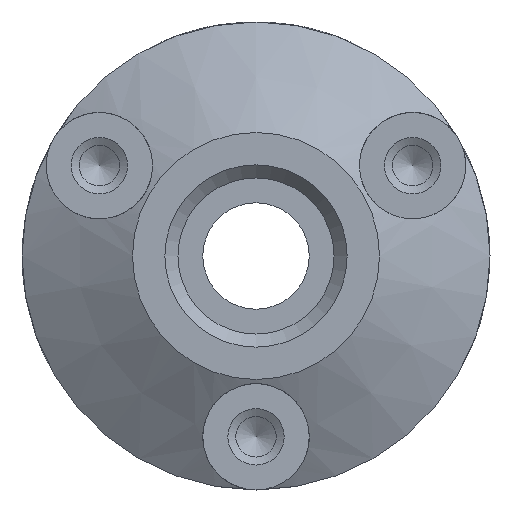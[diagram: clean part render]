
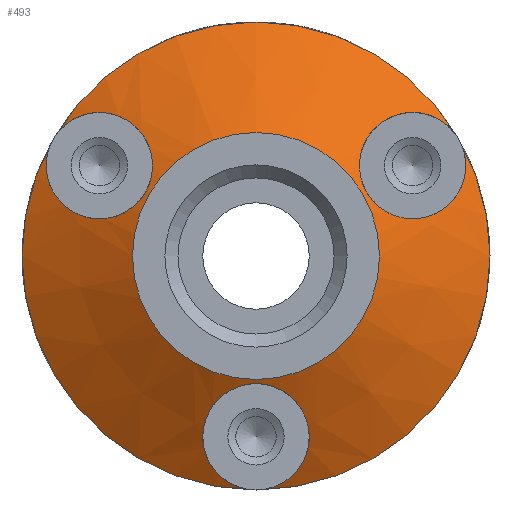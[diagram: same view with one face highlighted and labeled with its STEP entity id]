
A CAD part, front view. The second image highlights one B-rep face of the part: STEP entity #493.
In plain terms, the highlighted conical face has half-angle 60 degrees and reference radius 22 mm.
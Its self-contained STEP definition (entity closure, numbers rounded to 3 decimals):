
#92=CONICAL_SURFACE('',#1375,22.,60.);
#289=FACE_BOUND('',#715,.T.);
#290=FACE_BOUND('',#716,.T.);
#391=CIRCLE('',#1359,22.);
#392=CIRCLE('',#1360,22.);
#393=CIRCLE('',#1361,22.);
#395=CIRCLE('',#1364,11.608);
#493=ADVANCED_FACE('',(#289,#290),#92,.T.);
#715=EDGE_LOOP('',(#939));
#716=EDGE_LOOP('',(#940,#941,#942,#943,#944,#945));
#939=ORIENTED_EDGE('',*,*,#1180,.F.);
#940=ORIENTED_EDGE('',*,*,#1178,.F.);
#941=ORIENTED_EDGE('',*,*,#1188,.F.);
#942=ORIENTED_EDGE('',*,*,#1177,.F.);
#943=ORIENTED_EDGE('',*,*,#1189,.F.);
#944=ORIENTED_EDGE('',*,*,#1176,.F.);
#945=ORIENTED_EDGE('',*,*,#1190,.F.);
#1066=VERTEX_POINT('',#2139);
#1067=VERTEX_POINT('',#2140);
#1068=VERTEX_POINT('',#2142);
#1070=VERTEX_POINT('',#2148);
#1176=EDGE_CURVE('',#1066,#1067,#391,.T.);
#1177=EDGE_CURVE('',#1067,#1068,#392,.T.);
#1178=EDGE_CURVE('',#1068,#1066,#393,.T.);
#1180=EDGE_CURVE('',#1070,#1070,#395,.T.);
#1188=EDGE_CURVE('',#1068,#1068,#1210,.T.);
#1189=EDGE_CURVE('',#1067,#1067,#1211,.T.);
#1190=EDGE_CURVE('',#1066,#1066,#1212,.T.);
#1210=B_SPLINE_CURVE_WITH_KNOTS('',3,(#2166,#2167,#2168,#2169,#2170,#2171,
#2172,#2173,#2174,#2175,#2176,#2177,#2178,#2179,#2180,#2181,#2182,#2183),
 .UNSPECIFIED.,.T.,.F.,(2,2,2,2,2,2,2,2,2,2,2),(-0.125,0.,0.125,0.25,0.375,
0.5,0.625,0.75,0.875,1.,1.125),.UNSPECIFIED.);
#1211=B_SPLINE_CURVE_WITH_KNOTS('',3,(#2184,#2185,#2186,#2187,#2188,#2189,
#2190,#2191,#2192,#2193,#2194,#2195,#2196,#2197,#2198,#2199,#2200,#2201),
 .UNSPECIFIED.,.T.,.F.,(2,2,2,2,2,2,2,2,2,2,2),(-0.125,0.,0.125,0.25,0.375,
0.5,0.625,0.75,0.875,1.,1.125),.UNSPECIFIED.);
#1212=B_SPLINE_CURVE_WITH_KNOTS('',3,(#2202,#2203,#2204,#2205,#2206,#2207,
#2208,#2209,#2210,#2211,#2212,#2213,#2214,#2215,#2216,#2217,#2218,#2219),
 .UNSPECIFIED.,.T.,.F.,(2,2,2,2,2,2,2,2,2,2,2),(-0.125,0.,0.125,0.25,0.375,
0.5,0.625,0.75,0.875,1.,1.125),.UNSPECIFIED.);
#1359=AXIS2_PLACEMENT_3D('',#2138,#1710,#1711);
#1360=AXIS2_PLACEMENT_3D('',#2141,#1712,#1713);
#1361=AXIS2_PLACEMENT_3D('',#2143,#1714,#1715);
#1364=AXIS2_PLACEMENT_3D('',#2147,#1720,#1721);
#1375=AXIS2_PLACEMENT_3D('',#2220,#1742,#1743);
#1710=DIRECTION('',(0.,1.,0.));
#1711=DIRECTION('',(0.866,0.,-0.5));
#1712=DIRECTION('',(0.,1.,0.));
#1713=DIRECTION('',(0.866,0.,-0.5));
#1714=DIRECTION('',(0.,1.,0.));
#1715=DIRECTION('',(0.866,0.,-0.5));
#1720=DIRECTION('',(0.,-1.,0.));
#1721=DIRECTION('',(0.866,0.,-0.5));
#1742=DIRECTION('',(0.,1.,0.));
#1743=DIRECTION('',(-0.866,0.,0.5));
#2138=CARTESIAN_POINT('',(0.,-34.,0.));
#2139=CARTESIAN_POINT('',(-19.053,-34.,11.));
#2140=CARTESIAN_POINT('',(19.053,-34.,11.));
#2141=CARTESIAN_POINT('',(0.,-34.,0.));
#2142=CARTESIAN_POINT('',(0.,-34.,-22.));
#2143=CARTESIAN_POINT('',(0.,-34.,0.));
#2147=CARTESIAN_POINT('',(0.,-40.,0.));
#2148=CARTESIAN_POINT('',(10.053,-40.,-5.804));
#2166=CARTESIAN_POINT('',(-1.428,-34.,-22.));
#2167=CARTESIAN_POINT('',(1.428,-34.,-22.));
#2168=CARTESIAN_POINT('',(2.794,-34.283,-21.354));
#2169=CARTESIAN_POINT('',(4.588,-35.213,-19.391));
#2170=CARTESIAN_POINT('',(5.031,-35.851,-18.112));
#2171=CARTESIAN_POINT('',(4.966,-37.236,-15.629));
#2172=CARTESIAN_POINT('',(4.488,-37.968,-14.459));
#2173=CARTESIAN_POINT('',(2.739,-39.249,-12.63));
#2174=CARTESIAN_POINT('',(1.411,-39.772,-12.002));
#2175=CARTESIAN_POINT('',(-1.4,-39.775,-11.998));
#2176=CARTESIAN_POINT('',(-2.742,-39.246,-12.634));
#2177=CARTESIAN_POINT('',(-4.483,-37.972,-14.453));
#2178=CARTESIAN_POINT('',(-4.968,-37.224,-15.65));
#2179=CARTESIAN_POINT('',(-5.029,-35.854,-18.106));
#2180=CARTESIAN_POINT('',(-4.585,-35.211,-19.395));
#2181=CARTESIAN_POINT('',(-2.798,-34.284,-21.351));
#2182=CARTESIAN_POINT('',(-1.428,-34.,-22.));
#2183=CARTESIAN_POINT('',(1.428,-34.,-22.));
#2184=CARTESIAN_POINT('',(19.763,-34.,9.769));
#2185=CARTESIAN_POINT('',(18.342,-34.,12.231));
#2186=CARTESIAN_POINT('',(17.1,-34.281,13.096));
#2187=CARTESIAN_POINT('',(14.493,-35.216,13.67));
#2188=CARTESIAN_POINT('',(13.159,-35.857,13.408));
#2189=CARTESIAN_POINT('',(11.052,-37.236,12.113));
#2190=CARTESIAN_POINT('',(10.272,-37.974,11.107));
#2191=CARTESIAN_POINT('',(9.567,-39.254,8.674));
#2192=CARTESIAN_POINT('',(9.69,-39.775,7.213));
#2193=CARTESIAN_POINT('',(11.103,-39.772,4.774));
#2194=CARTESIAN_POINT('',(12.324,-39.24,3.935));
#2195=CARTESIAN_POINT('',(14.777,-37.961,3.344));
#2196=CARTESIAN_POINT('',(16.05,-37.216,3.526));
#2197=CARTESIAN_POINT('',(18.2,-35.85,4.704));
#2198=CARTESIAN_POINT('',(19.091,-35.209,5.731));
#2199=CARTESIAN_POINT('',(19.889,-34.283,8.257));
#2200=CARTESIAN_POINT('',(19.763,-34.,9.769));
#2201=CARTESIAN_POINT('',(18.342,-34.,12.231));
#2202=CARTESIAN_POINT('',(-18.341,-34.,12.232));
#2203=CARTESIAN_POINT('',(-19.764,-34.,9.768));
#2204=CARTESIAN_POINT('',(-19.892,-34.282,8.259));
#2205=CARTESIAN_POINT('',(-19.083,-35.217,5.713));
#2206=CARTESIAN_POINT('',(-18.188,-35.859,4.689));
#2207=CARTESIAN_POINT('',(-16.011,-37.24,3.513));
#2208=CARTESIAN_POINT('',(-14.757,-37.973,3.341));
#2209=CARTESIAN_POINT('',(-12.288,-39.258,3.951));
#2210=CARTESIAN_POINT('',(-11.09,-39.775,4.788));
#2211=CARTESIAN_POINT('',(-9.688,-39.772,7.223));
#2212=CARTESIAN_POINT('',(-9.57,-39.242,8.701));
#2213=CARTESIAN_POINT('',(-10.279,-37.968,11.115));
#2214=CARTESIAN_POINT('',(-11.072,-37.221,12.131));
#2215=CARTESIAN_POINT('',(-13.171,-35.851,13.41));
#2216=CARTESIAN_POINT('',(-14.506,-35.211,13.668));
#2217=CARTESIAN_POINT('',(-17.094,-34.284,13.097));
#2218=CARTESIAN_POINT('',(-18.341,-34.,12.232));
#2219=CARTESIAN_POINT('',(-19.764,-34.,9.768));
#2220=CARTESIAN_POINT('',(0.,-34.,0.));
